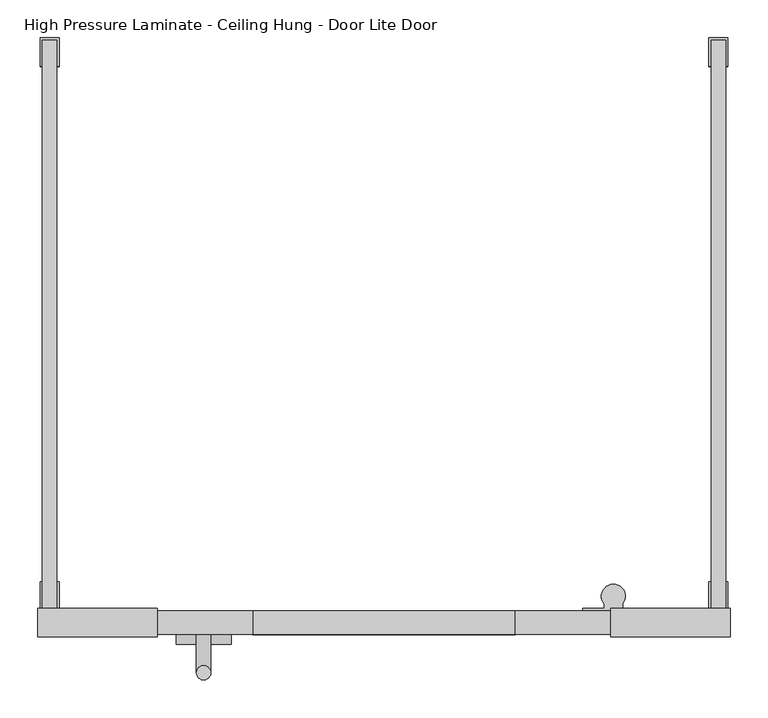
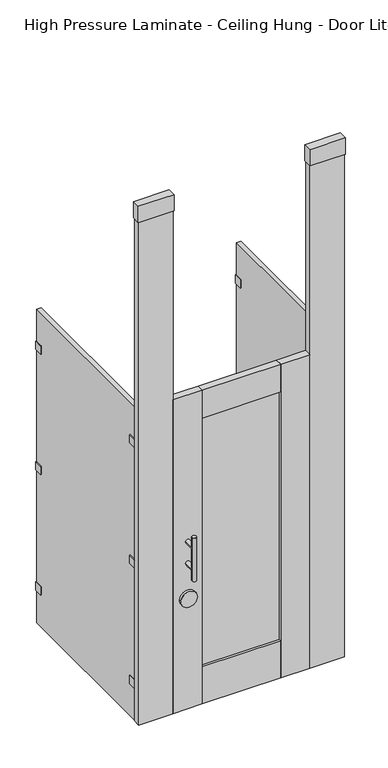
"""IFC4 building model written with IfcOpenShell, lengths in millimetres: proxy geometry, Toilet-Partition_Ironwood-Mfg_High-Pressure-Laminate : High Pressure Laminate - Ceiling Hung - Door Lite Door."""

from ifc_helpers import new_model, si_unit, point, frame, frame_2d, origin, place, context, project, spatial, polyline, circle_curve, ellipse_curve, trimmed, segment, composite_curve, outline, extrude, source, transform, mapped, element, save
from ifc_brep_helpers import plane_surface, cylinder_surface, advanced_brep


def high_pressure_laminate_ceiling_hung_door_lite_door_4c4385df(model_context):
    return source(origin(), model_context, "Body", "SolidModel", [
        extrude(outline(polyline([(542.925, -796.925), (542.925, -758.825), (701.675, -758.825), (701.675, -796.925), (542.925, -796.925)])), frame((0.0, 0.0, 2667.0), z_axis=(0.0, 0.0, 1.0), x_axis=(1.0, 0.0, 0.0)), (0.0, 0.0, 1.0), 76.1999999),
        extrude(outline(polyline([(0.0, 152.4), (31.75, 152.4), (31.75, 0.0), (0.0, 0.0), (0.0, 152.4)])), frame((546.1, -762.0, 304.8), z_axis=(1.181277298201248e-12, 0.0, 1.0), x_axis=(0.0, -1.0, 0.0)), (0.0, 0.0, 1.0), 2362.2),
        extrude(outline(polyline([(-60.325, -796.925), (-219.075, -796.925), (-219.075, -758.825), (-60.325, -758.825), (-60.325, -796.925)])), frame((0.0, 0.0, 2667.0), z_axis=(0.0, 0.0, 1.0), x_axis=(1.0, 0.0, 0.0)), (0.0, 0.0, 1.0), 76.1999999),
        extrude(outline(polyline([(0.0, -152.4), (0.0, 0.0), (31.75, 0.0), (31.75, -152.4), (0.0, -152.4)])), frame((-63.5, -762.0, 304.8), z_axis=(-1.1812772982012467e-12, 0.0, 1.0), x_axis=(0.0, -1.0, 0.0)), (0.0, 0.0, 1.0), 2362.2),
        extrude(outline(polyline([(415.925, -782.6375), (66.675, -782.6375), (66.675, -773.1125), (415.925, -773.1125), (415.925, -782.6375)])), frame((0.0, 0.0, 479.425), z_axis=(0.0, 0.0, 1.0), x_axis=(1.0, 0.0, 0.0)), (0.0, 0.0, 1.0), 1168.4),
        extrude(outline(polyline([(66.675, -762.0), (66.675, -793.75), (-63.5, -793.75), (-63.5, -762.0), (66.675, -762.0)])), frame((0.0, 0.0, 304.8), z_axis=(0.0, 0.0, 1.0), x_axis=(1.0, 0.0, 0.0)), (0.0, 0.0, 1.0), 1473.2),
        extrude(outline(polyline([(415.925, -762.0), (546.1, -762.0), (546.1, -793.75), (415.925, -793.75), (415.925, -762.0)])), frame((0.0, 0.0, 304.8), z_axis=(0.0, 0.0, 1.0), x_axis=(1.0, 0.0, 0.0)), (0.0, 0.0, 1.0), 1473.2),
        extrude(outline(polyline([(415.925, -762.0), (415.925, -793.75), (66.675, -793.75), (66.675, -762.0), (415.925, -762.0)])), frame((0.0, 0.0, 1647.825), z_axis=(0.0, 0.0, 1.0), x_axis=(1.0, 0.0, 0.0)), (0.0, 0.0, 1.0), 130.175),
        extrude(outline(polyline([(415.925, -762.0), (415.925, -793.75), (66.675, -793.75), (66.675, -762.0), (415.925, -762.0)])), frame((0.0, 0.0, 304.8), z_axis=(0.0, 0.0, 1.0), x_axis=(1.0, 0.0, 0.0)), (0.0, 0.0, 1.0), 174.625),
        extrude(outline(composite_curve([segment(trimmed(circle_curve(frame_2d((827.0875, 1.5875)), 36.5125), [point((827.0875, -34.925))], [point((827.0875, 38.1))], False, "CARTESIAN"), True, "CONTINUOUS"), segment(trimmed(circle_curve(frame_2d((827.0875, 1.5875)), 36.5125), [point((827.0875, 38.1))], [point((827.0875, -34.925))], False, "CARTESIAN"), True, "CONTINUOUS")], self_intersect=False)), frame((0.0, -806.45, 0.0), z_axis=(0.0, 1.0, 0.0), x_axis=(0.0, 0.0, 1.0)), (0.0, 0.0, 1.0), 12.7),
        advanced_brep(
        [(-7.9375, -793.75, 1092.2), (11.1125, -793.75, 1092.2), (-7.9375, -793.75, 990.6), (11.1125, -793.75, 990.6), (11.1125, -844.55, 1092.2), (-7.9375, -844.55, 1092.2), (11.1125, -844.55, 990.6), (-7.9375, -844.55, 990.6), (-7.9375, -844.55, 1143.0), (11.1125, -844.55, 1143.0), (-7.9375, -844.55, 939.8), (11.1125, -844.55, 939.8)],
        [
            (0, 1, circle_curve(frame((1.5875, -793.75, 1092.2), z_axis=(0.0, 1.0, 0.0), x_axis=(1.0, 0.0, 0.0)), 9.525)),
            (1, 0, circle_curve(frame((1.5875, -793.75, 1092.2), z_axis=(0.0, 1.0, 0.0), x_axis=(1.0, 0.0, 0.0)), 9.525)),
            (2, 3, circle_curve(frame((1.5875, -793.75, 990.6), z_axis=(0.0, 1.0, 0.0), x_axis=(1.0, 0.0, 0.0)), 9.525)),
            (3, 2, circle_curve(frame((1.5875, -793.75, 990.6), z_axis=(0.0, 1.0, 0.0), x_axis=(1.0, 0.0, 0.0)), 9.525)),
            (1, 4),
            (4, 5, ellipse_curve(frame((1.5875, -844.55, 1092.2), z_axis=(0.0, 0.7071067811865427, 0.7071067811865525), x_axis=(0.0, -0.7071067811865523, 0.7071067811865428)), 13.4703842, 9.525)),
            (5, 0),
            (5, 4, ellipse_curve(frame((1.5875, -844.55, 1092.2), z_axis=(0.0, 0.7071067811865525, -0.7071067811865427), x_axis=(0.0, -0.7071067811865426, -0.7071067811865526)), 13.4703842, 9.525)),
            (3, 6),
            (6, 7, ellipse_curve(frame((1.5875, -844.55, 990.6), z_axis=(0.0, 0.7071067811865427, 0.7071067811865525), x_axis=(0.0, -0.7071067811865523, 0.7071067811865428)), 13.4703842, 9.525)),
            (7, 2),
            (7, 6, ellipse_curve(frame((1.5875, -844.55, 990.6), z_axis=(0.0, 0.7071067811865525, -0.7071067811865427), x_axis=(0.0, -0.7071067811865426, -0.7071067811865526)), 13.4703842, 9.525)),
            (8, 9, circle_curve(frame((1.5875, -844.55, 1143.0), z_axis=(0.0, 0.0, 1.0), x_axis=(1.0, 0.0, 0.0)), 9.525)),
            (9, 8, circle_curve(frame((1.5875, -844.55, 1143.0), z_axis=(0.0, 0.0, 1.0), x_axis=(1.0, 0.0, 0.0)), 9.525)),
            (10, 11, circle_curve(frame((1.5875, -844.55, 939.8), z_axis=(0.0, 0.0, -1.0), x_axis=(1.0, 0.0, 0.0)), 9.525)),
            (11, 10, circle_curve(frame((1.5875, -844.55, 939.8), z_axis=(0.0, 0.0, -1.0), x_axis=(1.0, 0.0, 0.0)), 9.525)),
            (8, 5),
            (5, 7),
            (7, 10),
            (11, 6),
            (6, 4),
            (4, 9),
        ],
        [
            plane_surface(frame((11.1125, -793.75, 1092.2), z_axis=(0.0, 1.0, 0.0), x_axis=(0.0, 0.0, -1.0))),
            cylinder_surface(frame((1.5875, -793.75, 1092.2), z_axis=(0.0, -1.0, 0.0), x_axis=(1.0, 0.0, 0.0)), 9.525),
            cylinder_surface(frame((1.5875, -793.75, 990.6), z_axis=(0.0, -1.0, 0.0), x_axis=(1.0, 0.0, 0.0)), 9.525),
            plane_surface(frame((11.1125, -844.55, 1143.0), z_axis=(0.0, 0.0, 1.0), x_axis=(0.0, 1.0, 0.0))),
            plane_surface(frame((11.1125, -844.55, 939.8), z_axis=(0.0, 0.0, -1.0), x_axis=(0.0, -1.0, 0.0))),
            cylinder_surface(frame((1.5875, -844.55, 939.8), z_axis=(0.0, 0.0, 1.0), x_axis=(1.0, 0.0, 0.0)), 9.525),
        ],
        [
            (0, [[1, 2]]),
            (0, [[3, 4]]),
            (1, [[-2, 5, 6, 7]]),
            (1, [[-1, -7, 8, -5]]),
            (2, [[-4, 9, 10, 11]]),
            (2, [[-3, -11, 12, -9]]),
            (3, [[13, 14]]),
            (4, [[15, 16]]),
            (5, [[-13, 17, 18, 19, -16, 20, 21, 22]]),
            (5, [[-14, -22, -8, -17]]),
            (5, [[-15, -19, -10, -20]]),
            (5, [[-18, -6, -21, -12]]),
        ],
    ),
        extrude(outline(composite_curve([segment(polyline([(581.3737081, -762.0), (505.1737081, -762.0), (505.1737081, -758.825), (533.7487081, -758.825), (533.7487081, -752.9581331)]), True, "CONTINUOUS"), segment(trimmed(circle_curve(frame_2d((546.1, -742.8902139)), 15.9347861), [point((533.7487081, -752.9581331))], [point((558.4512919, -752.9581331))], False, "CARTESIAN"), True, "CONTINUOUS"), segment(polyline([(558.4512919, -752.9581331), (558.4512919, -758.825), (581.3737081, -758.825), (581.3737081, -762.0)]), True, "CONTINUOUS")], self_intersect=False)), frame((0.0, 0.0, 1574.8), z_axis=(0.0, 0.0, 1.0), x_axis=(1.0, 0.0, 0.0)), (0.0, 0.0, 1.0), 63.5),
        extrude(outline(composite_curve([segment(polyline([(581.3737081, -762.0), (505.1737081, -762.0), (505.1737081, -758.825), (533.7487081, -758.825), (533.7487081, -752.9581331)]), True, "CONTINUOUS"), segment(trimmed(circle_curve(frame_2d((546.1, -742.8902139)), 15.9347861), [point((533.7487081, -752.9581331))], [point((558.4512919, -752.9581331))], False, "CARTESIAN"), True, "CONTINUOUS"), segment(polyline([(558.4512919, -752.9581331), (558.4512919, -758.825), (581.3737081, -758.825), (581.3737081, -762.0)]), True, "CONTINUOUS")], self_intersect=False)), frame((0.0, 0.0, 1009.6500001), z_axis=(0.0, 0.0, 1.0), x_axis=(1.0, 0.0, 0.0)), (0.0, 0.0, 1.0), 63.5),
        extrude(outline(composite_curve([segment(polyline([(581.3737081, -762.0), (505.1737081, -762.0), (505.1737081, -758.825), (533.7487081, -758.825), (533.7487081, -752.9581331)]), True, "CONTINUOUS"), segment(trimmed(circle_curve(frame_2d((546.1, -742.8902139)), 15.9347861), [point((533.7487081, -752.9581331))], [point((558.4512919, -752.9581331))], False, "CARTESIAN"), True, "CONTINUOUS"), segment(polyline([(558.4512919, -752.9581331), (558.4512919, -758.825), (581.3737081, -758.825), (581.3737081, -762.0)]), True, "CONTINUOUS")], self_intersect=False)), frame((0.0, 0.0, 444.5), z_axis=(0.0, 0.0, 1.0), x_axis=(1.0, 0.0, 0.0)), (0.0, 0.0, 1.0), 63.5),
        extrude(outline(polyline([(676.148, -723.9), (676.148, -758.825), (695.198, -758.825), (695.198, -723.9), (698.373, -723.9), (698.373, -762.0), (672.973, -762.0), (672.973, -723.9), (676.148, -723.9)])), frame((0.0, 0.0, 1587.8188137), z_axis=(0.0, 0.0, 1.0), x_axis=(1.0, 0.0, 0.0)), (0.0, 0.0, 1.0), 38.1),
        extrude(outline(polyline([(676.148, -38.1), (672.973, -38.1), (672.973, 0.0), (698.373, 0.0), (698.373, -38.1), (695.198, -38.1), (695.198, -3.175), (676.148, -3.175), (676.148, -38.1)])), frame((0.0, 0.0, 1587.8188137), z_axis=(0.0, 0.0, 1.0), x_axis=(1.0, 0.0, 0.0)), (0.0, 0.0, 1.0), 38.1),
        extrude(outline(polyline([(676.148, -723.9), (676.148, -758.825), (695.198, -758.825), (695.198, -723.9), (698.373, -723.9), (698.373, -762.0), (672.973, -762.0), (672.973, -723.9), (676.148, -723.9)])), frame((0.0, 0.0, 1022.35), z_axis=(0.0, 0.0, 1.0), x_axis=(1.0, 0.0, 0.0)), (0.0, 0.0, 1.0), 38.1),
        extrude(outline(polyline([(676.148, -38.1), (672.973, -38.1), (672.973, 0.0), (698.373, 0.0), (698.373, -38.1), (695.198, -38.1), (695.198, -3.175), (676.148, -3.175), (676.148, -38.1)])), frame((0.0, 0.0, 1022.35), z_axis=(0.0, 0.0, 1.0), x_axis=(1.0, 0.0, 0.0)), (0.0, 0.0, 1.0), 38.1),
        extrude(outline(polyline([(676.148, -723.9), (676.148, -758.825), (695.198, -758.825), (695.198, -723.9), (698.373, -723.9), (698.373, -762.0), (672.973, -762.0), (672.973, -723.9), (676.148, -723.9)])), frame((0.0, 0.0, 457.2), z_axis=(0.0, 0.0, 1.0), x_axis=(1.0, 0.0, 0.0)), (0.0, 0.0, 1.0), 38.1),
        extrude(outline(polyline([(676.148, -38.1), (672.973, -38.1), (672.973, 0.0), (698.373, 0.0), (698.373, -38.1), (695.198, -38.1), (695.198, -3.175), (676.148, -3.175), (676.148, -38.1)])), frame((0.0, 0.0, 457.2), z_axis=(0.0, 0.0, 1.0), x_axis=(1.0, 0.0, 0.0)), (0.0, 0.0, 1.0), 38.1),
        extrude(outline(polyline([(-212.598, -723.9), (-212.598, -758.825), (-193.548, -758.825), (-193.548, -723.9), (-190.373, -723.9), (-190.373, -762.0), (-215.773, -762.0), (-215.773, -723.9), (-212.598, -723.9)])), frame((0.0, 0.0, 1587.8188137), z_axis=(0.0, 0.0, 1.0), x_axis=(1.0, 0.0, 0.0)), (0.0, 0.0, 1.0), 38.1),
        extrude(outline(polyline([(-212.598, -38.1), (-215.773, -38.1), (-215.773, 0.0), (-190.373, 0.0), (-190.373, -38.1), (-193.548, -38.1), (-193.548, -3.175), (-212.598, -3.175), (-212.598, -38.1)])), frame((0.0, 0.0, 1587.8188137), z_axis=(0.0, 0.0, 1.0), x_axis=(1.0, 0.0, 0.0)), (0.0, 0.0, 1.0), 38.1),
        extrude(outline(polyline([(-212.598, -723.9), (-212.598, -758.825), (-193.548, -758.825), (-193.548, -723.9), (-190.373, -723.9), (-190.373, -762.0), (-215.773, -762.0), (-215.773, -723.9), (-212.598, -723.9)])), frame((0.0, 0.0, 1022.35), z_axis=(0.0, 0.0, 1.0), x_axis=(1.0, 0.0, 0.0)), (0.0, 0.0, 1.0), 38.1),
        extrude(outline(polyline([(-212.598, -38.1), (-215.773, -38.1), (-215.773, 0.0), (-190.373, 0.0), (-190.373, -38.1), (-193.548, -38.1), (-193.548, -3.175), (-212.598, -3.175), (-212.598, -38.1)])), frame((0.0, 0.0, 1022.35), z_axis=(0.0, 0.0, 1.0), x_axis=(1.0, 0.0, 0.0)), (0.0, 0.0, 1.0), 38.1),
        extrude(outline(polyline([(-212.598, -723.9), (-212.598, -758.825), (-193.548, -758.825), (-193.548, -723.9), (-190.373, -723.9), (-190.373, -762.0), (-215.773, -762.0), (-215.773, -723.9), (-212.598, -723.9)])), frame((0.0, 0.0, 457.2), z_axis=(0.0, 0.0, 1.0), x_axis=(1.0, 0.0, 0.0)), (0.0, 0.0, 1.0), 38.1),
        extrude(outline(polyline([(-212.598, -38.1), (-215.773, -38.1), (-215.773, 0.0), (-190.373, 0.0), (-190.373, -38.1), (-193.548, -38.1), (-193.548, -3.175), (-212.598, -3.175), (-212.598, -38.1)])), frame((0.0, 0.0, 457.2), z_axis=(0.0, 0.0, 1.0), x_axis=(1.0, 0.0, 0.0)), (0.0, 0.0, 1.0), 38.1),
        extrude(outline(polyline([(-193.548, -3.175), (-193.548, -758.825), (-212.598, -758.825), (-212.598, -3.175), (-193.548, -3.175)])), frame((0.0, 0.0, 304.8), z_axis=(0.0, 0.0, 1.0), x_axis=(1.0, 0.0, 0.0)), (0.0, 0.0, 1.0), 1473.2),
        extrude(outline(polyline([(695.198, -3.175), (695.198, -758.825), (676.148, -758.825), (676.148, -3.175), (695.198, -3.175)])), frame((0.0, 0.0, 304.8), z_axis=(0.0, 0.0, 1.0), x_axis=(1.0, 0.0, 0.0)), (0.0, 0.0, 1.0), 1473.2),
    ])


if __name__ == "__main__":
    model = new_model("IFC4")
    model_context = context("Model", 3, world=origin())
    ifc_project = project(units=[si_unit("LENGTHUNIT", "METRE", prefix="MILLI")], contexts=[model_context])
    site = spatial("IfcSite", under=ifc_project)
    building = spatial("IfcBuilding", under=site)
    placement = place(None, origin())
    high_pressure_laminate_ceiling_hung_door_lite_door_shape = high_pressure_laminate_ceiling_hung_door_lite_door_4c4385df(model_context)
    element("IfcBuildingElementProxy", 1, Name="Toilet-Partition_Ironwood-Mfg_High-Pressure-Laminate : High Pressure Laminate - Ceiling Hung - Door Lite Door", ObjectType="Toilet-Partition_Ironwood-Mfg_High-Pressure-Laminate : High Pressure Laminate - Ceiling Hung - Door Lite Door", at=placement, inside=building, context=model_context, shape_type="MappedRepresentation", body=[
        mapped(high_pressure_laminate_ceiling_hung_door_lite_door_shape, transform((0.0, 0.0, 0.0), x_axis=(1.0, 0.0, 0.0), y_axis=(0.0, 1.0, 0.0), z_axis=(0.0, 0.0, 1.0))),
    ])
    save(model, "model.ifc")
